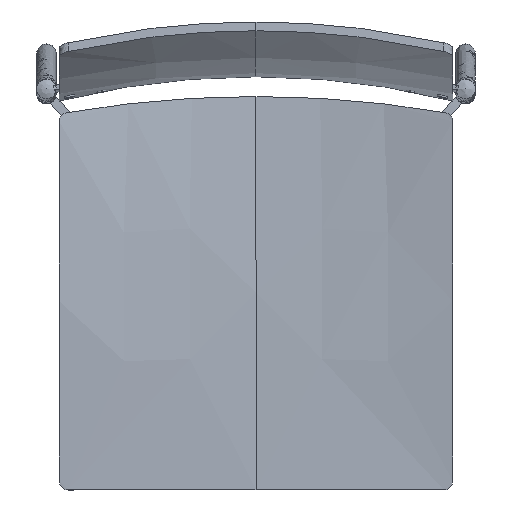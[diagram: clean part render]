
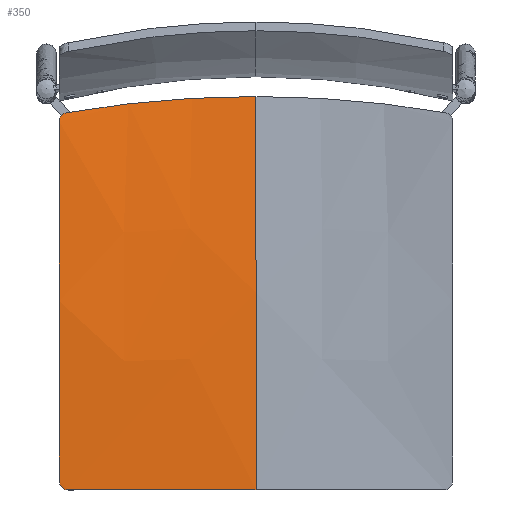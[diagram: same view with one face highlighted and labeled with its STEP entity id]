
A CAD part, top view. The second image highlights one B-rep face of the part: STEP entity #350.
In plain terms, the highlighted free-form (B-spline) face has degree [3, 3] with [6, 6] control points.
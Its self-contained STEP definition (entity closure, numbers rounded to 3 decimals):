
#22=B_SPLINE_SURFACE_WITH_KNOTS('',3,3,((#3750,#3751,#3752,#3753,#3754,
#3755),(#3756,#3757,#3758,#3759,#3760,#3761),(#3762,#3763,#3764,#3765,#3766,
#3767),(#3768,#3769,#3770,#3771,#3772,#3773),(#3774,#3775,#3776,#3777,#3778,
#3779),(#3780,#3781,#3782,#3783,#3784,#3785)),.UNSPECIFIED.,.F.,.F.,.F.,
(4,1,1,4),(4,1,1,4),(0.,145.508,291.016,436.96),
(224.697,299.522,374.346,449.395),
 .UNSPECIFIED.);
#163=(
BOUNDED_CURVE()
B_SPLINE_CURVE(2,(#3945,#3946,#3947),.UNSPECIFIED.,.F.,.F.)
B_SPLINE_CURVE_WITH_KNOTS((3,3),(-226.906,-8.747),
 .UNSPECIFIED.)
CURVE()
GEOMETRIC_REPRESENTATION_ITEM()
RATIONAL_B_SPLINE_CURVE((1.,0.986,1.))
REPRESENTATION_ITEM('')
);
#165=(
BOUNDED_CURVE()
B_SPLINE_CURVE(2,(#3953,#3954,#3955),.UNSPECIFIED.,.F.,.F.)
B_SPLINE_CURVE_WITH_KNOTS((3,3),(-417.08,-10.001),
 .UNSPECIFIED.)
CURVE()
GEOMETRIC_REPRESENTATION_ITEM()
RATIONAL_B_SPLINE_CURVE((1.,0.999,1.))
REPRESENTATION_ITEM('')
);
#350=ADVANCED_FACE('',(#452),#22,.T.);
#452=FACE_OUTER_BOUND('',#554,.T.);
#554=EDGE_LOOP('',(#915,#916,#917,#918,#919,#920));
#915=ORIENTED_EDGE('',*,*,#1161,.T.);
#916=ORIENTED_EDGE('',*,*,#1154,.F.);
#917=ORIENTED_EDGE('',*,*,#1157,.T.);
#918=ORIENTED_EDGE('',*,*,#1168,.T.);
#919=ORIENTED_EDGE('',*,*,#1160,.T.);
#920=ORIENTED_EDGE('',*,*,#1170,.T.);
#1154=EDGE_CURVE('',#1448,#1449,#1306,.T.);
#1157=EDGE_CURVE('',#1448,#1455,#163,.T.);
#1160=EDGE_CURVE('',#1453,#1452,#165,.T.);
#1161=EDGE_CURVE('',#1456,#1449,#1309,.T.);
#1168=EDGE_CURVE('',#1455,#1453,#1316,.T.);
#1170=EDGE_CURVE('',#1452,#1456,#1318,.T.);
#1306=B_SPLINE_CURVE_WITH_KNOTS('',3,(#3934,#3935,#3936,#3937,#3938,#3939),
 .UNSPECIFIED.,.F.,.F.,(4,1,1,4),(-436.523,-291.016,-145.508,
0.),.UNSPECIFIED.);
#1309=B_SPLINE_CURVE_WITH_KNOTS('',1,(#3956,#3957),.UNSPECIFIED.,.F.,.F.,
(2,2),(-435.,-222.5),.UNSPECIFIED.);
#1316=B_SPLINE_CURVE_WITH_KNOTS('',3,(#3988,#3989,#3990,#3991,#3992,#3993,
#3994,#3995,#3996,#3997,#3998,#3999,#4000,#4001,#4002,#4003,#4004,#4005,
#4006,#4007),.UNSPECIFIED.,.F.,.F.,(4,1,1,1,1,1,1,1,1,1,1,1,1,1,1,1,1,4),
(-14.341,-13.544,-12.725,-11.889,
-11.037,-10.171,-9.297,-8.416,
-7.533,-6.651,-5.773,-4.903,
-4.045,-3.2,-2.371,-1.56,
-0.77,0.),.UNSPECIFIED.);
#1318=B_SPLINE_CURVE_WITH_KNOTS('',3,(#4028,#4029,#4030,#4031,#4032,#4033,
#4034,#4035,#4036,#4037,#4038,#4039,#4040,#4041,#4042,#4043,#4044,#4045,
#4046,#4047),.UNSPECIFIED.,.F.,.F.,(4,1,1,1,1,1,1,1,1,1,1,1,1,1,1,1,1,4),
(0.,0.846,1.719,2.616,3.536,
4.474,5.428,6.393,7.365,8.339,
9.311,10.276,11.229,12.168,13.087,
13.985,14.857,15.703),.UNSPECIFIED.);
#1448=VERTEX_POINT('',#3910);
#1449=VERTEX_POINT('',#3911);
#1452=VERTEX_POINT('',#3914);
#1453=VERTEX_POINT('',#3915);
#1455=VERTEX_POINT('',#3917);
#1456=VERTEX_POINT('',#3918);
#3750=CARTESIAN_POINT('',(0.,-257.5,438.92));
#3751=CARTESIAN_POINT('',(-24.722,-257.5,438.92));
#3752=CARTESIAN_POINT('',(-74.167,-257.5,438.92));
#3753=CARTESIAN_POINT('',(-148.408,-257.5,438.92));
#3754=CARTESIAN_POINT('',(-197.926,-257.5,438.92));
#3755=CARTESIAN_POINT('',(-222.723,-257.5,438.92));
#3756=CARTESIAN_POINT('',(0.,-207.832,436.162));
#3757=CARTESIAN_POINT('',(-24.777,-207.832,436.162));
#3758=CARTESIAN_POINT('',(-74.33,-208.011,436.425));
#3759=CARTESIAN_POINT('',(-148.624,-208.818,437.601));
#3760=CARTESIAN_POINT('',(-198.035,-209.708,438.899));
#3761=CARTESIAN_POINT('',(-222.722,-210.238,439.672));
#3762=CARTESIAN_POINT('',(0.,-108.594,428.907));
#3763=CARTESIAN_POINT('',(-24.886,-108.594,428.907));
#3764=CARTESIAN_POINT('',(-74.656,-109.124,429.702));
#3765=CARTESIAN_POINT('',(-149.058,-111.501,433.268));
#3766=CARTESIAN_POINT('',(-198.254,-114.126,437.2));
#3767=CARTESIAN_POINT('',(-222.72,-115.691,439.543));
#3768=CARTESIAN_POINT('',(0.,39.995,412.796));
#3769=CARTESIAN_POINT('',(-25.049,39.995,412.796));
#3770=CARTESIAN_POINT('',(-75.146,38.966,414.415));
#3771=CARTESIAN_POINT('',(-149.709,34.355,421.67));
#3772=CARTESIAN_POINT('',(-198.582,29.265,429.675));
#3773=CARTESIAN_POINT('',(-222.717,26.231,434.444));
#3774=CARTESIAN_POINT('',(0.,138.607,398.59));
#3775=CARTESIAN_POINT('',(-25.158,138.607,398.59));
#3776=CARTESIAN_POINT('',(-75.473,137.266,400.772));
#3777=CARTESIAN_POINT('',(-150.143,131.254,410.553));
#3778=CARTESIAN_POINT('',(-198.801,124.619,421.343));
#3779=CARTESIAN_POINT('',(-222.715,120.665,427.774));
#3780=CARTESIAN_POINT('',(0.,187.851,390.612));
#3781=CARTESIAN_POINT('',(-25.213,187.851,390.612));
#3782=CARTESIAN_POINT('',(-75.637,186.359,393.079));
#3783=CARTESIAN_POINT('',(-150.361,179.667,404.14));
#3784=CARTESIAN_POINT('',(-198.911,172.284,416.343));
#3785=CARTESIAN_POINT('',(-222.714,167.884,423.616));
#3910=CARTESIAN_POINT('',(0.,187.409,390.683));
#3911=CARTESIAN_POINT('',(0.,-257.5,438.92));
#3914=CARTESIAN_POINT('',(-222.5,-247.5,439.066));
#3915=CARTESIAN_POINT('',(-222.5,159.145,424.316));
#3917=CARTESIAN_POINT('',(-214.241,168.992,421.123));
#3918=CARTESIAN_POINT('',(-212.5,-257.5,438.92));
#3934=CARTESIAN_POINT('',(0.,187.409,390.683));
#3935=CARTESIAN_POINT('',(0.,138.312,398.633));
#3936=CARTESIAN_POINT('',(0.,39.846,412.812));
#3937=CARTESIAN_POINT('',(0.,-108.594,428.907));
#3938=CARTESIAN_POINT('',(0.,-207.832,436.162));
#3939=CARTESIAN_POINT('',(0.,-257.5,438.92));
#3945=CARTESIAN_POINT('',(0.,187.409,390.683));
#3946=CARTESIAN_POINT('',(-110.075,187.409,390.683));
#3947=CARTESIAN_POINT('',(-214.241,168.992,421.123));
#3953=CARTESIAN_POINT('',(-222.5,159.145,424.316));
#3954=CARTESIAN_POINT('',(-222.5,-43.812,441.779));
#3955=CARTESIAN_POINT('',(-222.5,-247.5,439.066));
#3956=CARTESIAN_POINT('',(-212.5,-257.5,438.92));
#3957=CARTESIAN_POINT('',(0.,-257.5,438.92));
#3988=CARTESIAN_POINT('',(-214.241,168.992,421.123));
#3989=CARTESIAN_POINT('',(-214.493,168.947,421.196));
#3990=CARTESIAN_POINT('',(-214.999,168.838,421.346));
#3991=CARTESIAN_POINT('',(-215.751,168.612,421.576));
#3992=CARTESIAN_POINT('',(-216.499,168.322,421.811));
#3993=CARTESIAN_POINT('',(-217.236,167.965,422.05));
#3994=CARTESIAN_POINT('',(-217.951,167.542,422.289));
#3995=CARTESIAN_POINT('',(-218.637,167.055,422.526));
#3996=CARTESIAN_POINT('',(-219.286,166.506,422.759));
#3997=CARTESIAN_POINT('',(-219.888,165.901,422.984));
#3998=CARTESIAN_POINT('',(-220.438,165.246,423.198));
#3999=CARTESIAN_POINT('',(-220.929,164.547,423.399));
#4000=CARTESIAN_POINT('',(-221.357,163.813,423.585));
#4001=CARTESIAN_POINT('',(-221.718,163.052,423.755));
#4002=CARTESIAN_POINT('',(-222.01,162.274,423.906));
#4003=CARTESIAN_POINT('',(-222.233,161.486,424.038));
#4004=CARTESIAN_POINT('',(-222.389,160.698,424.15));
#4005=CARTESIAN_POINT('',(-222.48,159.918,424.243));
#4006=CARTESIAN_POINT('',(-222.5,159.4,424.294));
#4007=CARTESIAN_POINT('',(-222.5,159.145,424.316));
#4028=CARTESIAN_POINT('',(-222.5,-247.5,439.066));
#4029=CARTESIAN_POINT('',(-222.5,-247.782,439.062));
#4030=CARTESIAN_POINT('',(-222.476,-248.355,439.054));
#4031=CARTESIAN_POINT('',(-222.364,-249.221,439.042));
#4032=CARTESIAN_POINT('',(-222.171,-250.097,439.029));
#4033=CARTESIAN_POINT('',(-221.892,-250.974,439.015));
#4034=CARTESIAN_POINT('',(-221.526,-251.838,439.002));
#4035=CARTESIAN_POINT('',(-221.073,-252.677,438.989));
#4036=CARTESIAN_POINT('',(-220.535,-253.479,438.977));
#4037=CARTESIAN_POINT('',(-219.918,-254.229,438.965));
#4038=CARTESIAN_POINT('',(-219.229,-254.918,438.955));
#4039=CARTESIAN_POINT('',(-218.479,-255.535,438.946));
#4040=CARTESIAN_POINT('',(-217.678,-256.073,438.938));
#4041=CARTESIAN_POINT('',(-216.838,-256.526,438.932));
#4042=CARTESIAN_POINT('',(-215.974,-256.892,438.927));
#4043=CARTESIAN_POINT('',(-215.098,-257.171,438.924));
#4044=CARTESIAN_POINT('',(-214.221,-257.364,438.922));
#4045=CARTESIAN_POINT('',(-213.355,-257.476,438.921));
#4046=CARTESIAN_POINT('',(-212.782,-257.5,438.92));
#4047=CARTESIAN_POINT('',(-212.5,-257.5,438.92));
